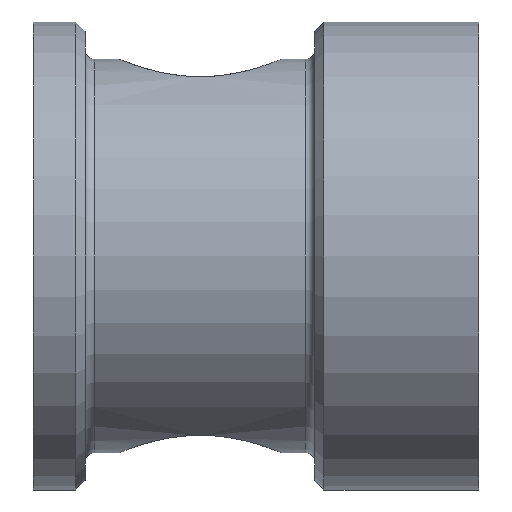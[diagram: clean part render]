
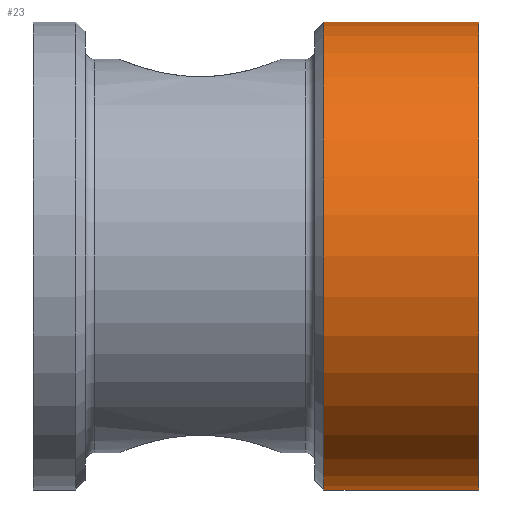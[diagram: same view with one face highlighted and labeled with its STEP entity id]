
A CAD part, front view. The second image highlights one B-rep face of the part: STEP entity #23.
In plain terms, the highlighted cylindrical face has radius 6.344 mm (diameter 12.689 mm), a full revolution.
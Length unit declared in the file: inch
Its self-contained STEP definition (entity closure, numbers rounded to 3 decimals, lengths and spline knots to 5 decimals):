
#18 = CARTESIAN_POINT ( 'NONE',  ( 0., 0., 0. ) ) ;
#23 = ADVANCED_FACE ( 'NONE', ( #342, #71 ), #75, .T. ) ;
#54 = EDGE_CURVE ( 'NONE', #240, #240, #116, .T. ) ;
#71 = FACE_OUTER_BOUND ( 'NONE', #181, .T. ) ;
#75 = CYLINDRICAL_SURFACE ( 'NONE', #474, 0.24977 ) ;
#85 = ORIENTED_EDGE ( 'NONE', *, *, #54, .T. ) ;
#90 = ORIENTED_EDGE ( 'NONE', *, *, #780, .T. ) ;
#107 = DIRECTION ( 'NONE',  ( 0., 0., -1. ) ) ;
#116 = CIRCLE ( 'NONE', #164, 0.24978 ) ;
#146 = CARTESIAN_POINT ( 'NONE',  ( 0.475, 0., 0. ) ) ;
#152 = AXIS2_PLACEMENT_3D ( 'NONE', #608, #726, #107 ) ;
#164 = AXIS2_PLACEMENT_3D ( 'NONE', #146, #403, #210 ) ;
#181 = EDGE_LOOP ( 'NONE', ( #85 ) ) ;
#210 = DIRECTION ( 'NONE',  ( 0., 0., 1. ) ) ;
#217 = CIRCLE ( 'NONE', #152, 0.24977 ) ;
#240 = VERTEX_POINT ( 'NONE', #365 ) ;
#270 = DIRECTION ( 'NONE',  ( 0., 0., 1. ) ) ;
#302 = CARTESIAN_POINT ( 'NONE',  ( 0.31, 0., -0.24977 ) ) ;
#337 = EDGE_LOOP ( 'NONE', ( #90 ) ) ;
#342 = FACE_OUTER_BOUND ( 'NONE', #337, .T. ) ;
#365 = CARTESIAN_POINT ( 'NONE',  ( 0.475, 0., 0.24978 ) ) ;
#403 = DIRECTION ( 'NONE',  ( -1., 0., 0. ) ) ;
#474 = AXIS2_PLACEMENT_3D ( 'NONE', #18, #704, #270 ) ;
#495 = VERTEX_POINT ( 'NONE', #302 ) ;
#608 = CARTESIAN_POINT ( 'NONE',  ( 0.31, 0., 0. ) ) ;
#704 = DIRECTION ( 'NONE',  ( -1., 0., 0. ) ) ;
#726 = DIRECTION ( 'NONE',  ( 1., 0., 0. ) ) ;
#780 = EDGE_CURVE ( 'NONE', #495, #495, #217, .T. ) ;
